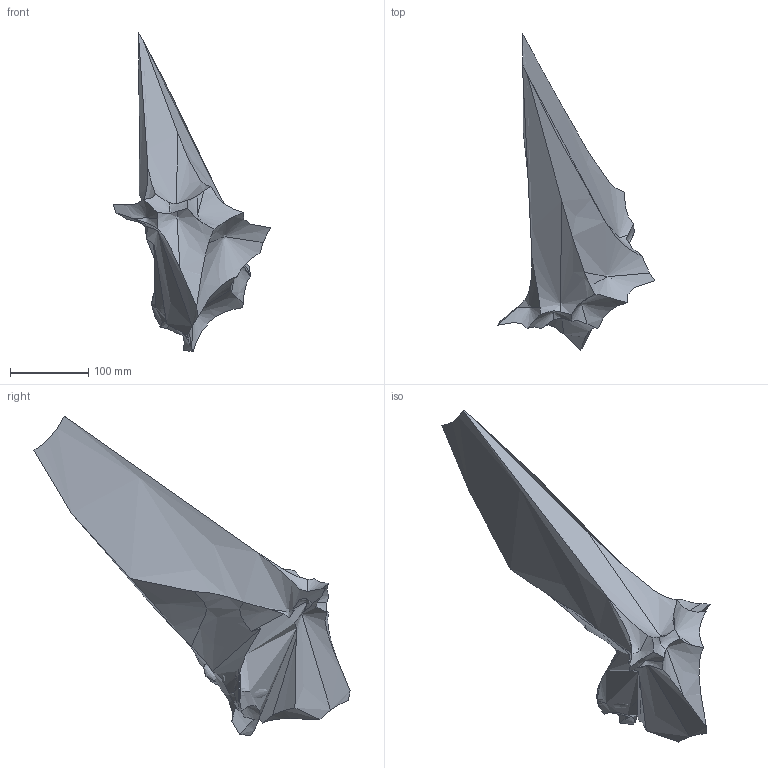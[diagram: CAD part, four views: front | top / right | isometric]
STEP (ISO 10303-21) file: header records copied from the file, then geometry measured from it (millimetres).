
FILE_DESCRIPTION (( 'STEP AP214' ), '1' );
FILE_NAME ('INDEX_CONTROLLER_KEEPOUT_VOLUME.STEP', '2019-05-20T22:38:32', ( '' ), ( '' ), 'SwSTEP 2.0', 'SolidWorks 2017', '' );
FILE_SCHEMA (( 'AUTOMOTIVE_DESIGN' ));
Length unit declared in the file: millimetre
Products named in the file (1): INDEX_CONTROLLER_KEEPOUT_VOLUME
Bounding box: 201.94 x 404.58 x 409.14 mm (x, y, z)
Volume: 3612879.8 mm3; surface area: 232208.4 mm2
Topology: 2 solids, 2 shells, 127 faces, 403 edges, 237 vertices
Faces by surface type: bspline 62, cone 62, plane 3
Entity records: 18826 total; most frequent: CARTESIAN_POINT 16218, ORIENTED_EDGE 706, EDGE_CURVE 353, DIRECTION 256, B_SPLINE_CURVE_WITH_KNOTS 242, VERTEX_POINT 237, EDGE_LOOP 136, FACE_OUTER_BOUND 127
